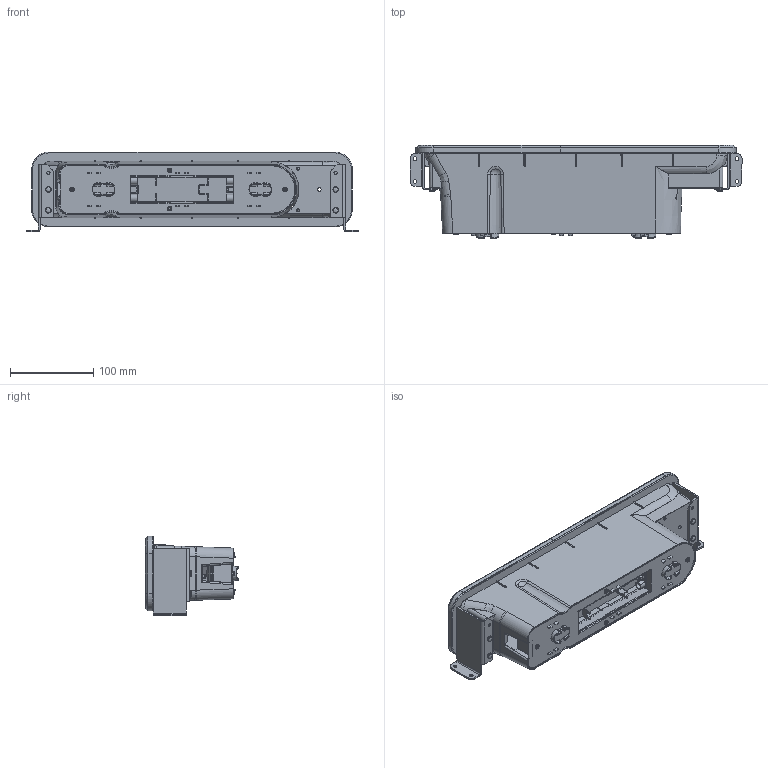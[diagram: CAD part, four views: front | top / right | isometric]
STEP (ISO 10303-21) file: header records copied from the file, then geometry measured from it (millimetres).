
FILE_DESCRIPTION (( 'STEP AP203' ), '1' );
FILE_NAME ('QikDoc Connect (M4F)_Screw fix_1.STEP', '2022-08-01T08:52:23', ( '' ), ( '' ), 'SwSTEP 2.0', 'SolidWorks 2021', '' );
FILE_SCHEMA (( 'CONFIG_CONTROL_DESIGN' ));
Products named in the file (1): QikDoc Connect (M4F)_Screw fix_1
Bounding box: 398.7 x 112.51 x 96 mm (x, y, z)
Surface area: 270680.7 mm2
Topology: 11 solids, 12 shells, 3167 faces, 7942 edges, 4778 vertices
Faces by surface type: cylinder 1073, plane 950, bspline 819, torus 144, sphere 96, cone 85
Full cylindrical faces by diameter (mm): 1 x2, 1.05 x2, 2.1 x8, 2.337 x2, 3.556 x2, 4 x2, 4.2 x1, 4.5 x4, 5.6 x4, 6.7 x4, 7.3 x4, 9.3 x4
Entity records: 117296 total; most frequent: CARTESIAN_POINT 50702, ORIENTED_EDGE 15506, DIRECTION 11999, EDGE_CURVE 7753, VERTEX_POINT 4712, AXIS2_PLACEMENT_3D 4351, EDGE_LOOP 3329, VECTOR 3297
